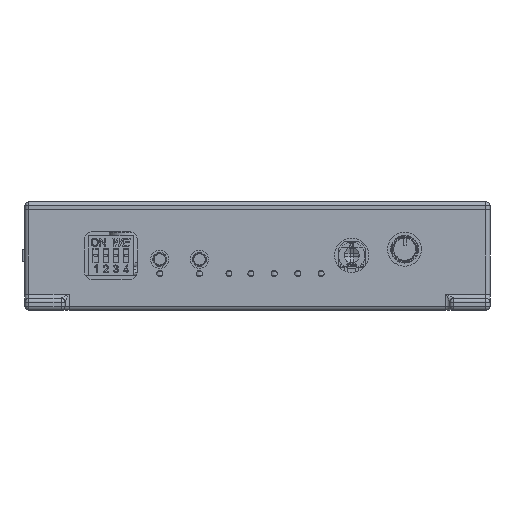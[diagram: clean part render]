
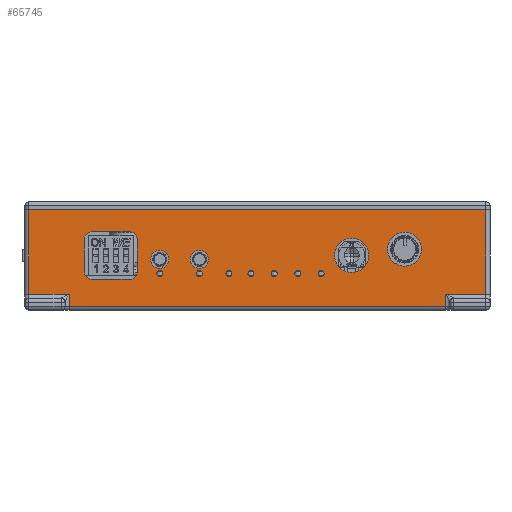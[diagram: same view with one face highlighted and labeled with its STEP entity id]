
A CAD part, front view. The second image highlights one B-rep face of the part: STEP entity #65745.
In plain terms, the highlighted planar face has unit normal (0, -1, 0).
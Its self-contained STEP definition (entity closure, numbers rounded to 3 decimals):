
#2525=CIRCLE('',#69641,0.75);
#2526=CIRCLE('',#69642,0.75);
#2527=CIRCLE('',#69643,0.75);
#2528=CIRCLE('',#69644,0.75);
#2529=CIRCLE('',#69645,0.75);
#2530=CIRCLE('',#69646,0.75);
#2531=CIRCLE('',#69647,0.75);
#2532=CIRCLE('',#69648,2.);
#2533=CIRCLE('',#69649,2.);
#2534=CIRCLE('',#69650,2.);
#2535=CIRCLE('',#69651,2.);
#2536=CIRCLE('',#69652,4.25);
#2537=CIRCLE('',#69653,2.25);
#2538=CIRCLE('',#69654,2.25);
#2539=CIRCLE('',#69655,4.25);
#4550=FACE_BOUND('',#11462,.T.);
#4551=FACE_BOUND('',#11463,.T.);
#4552=FACE_BOUND('',#11464,.T.);
#4553=FACE_BOUND('',#11465,.T.);
#4554=FACE_BOUND('',#11466,.T.);
#4555=FACE_BOUND('',#11467,.T.);
#4556=FACE_BOUND('',#11468,.T.);
#4557=FACE_BOUND('',#11469,.T.);
#4558=FACE_BOUND('',#11470,.T.);
#4559=FACE_BOUND('',#11471,.T.);
#4560=FACE_BOUND('',#11472,.T.);
#4561=FACE_BOUND('',#11473,.T.);
#5056=PLANE('',#69640);
#7800=FACE_OUTER_BOUND('',#11461,.T.);
#11461=EDGE_LOOP('',(#47375,#47376,#47377,#47378,#47379,#47380,#47381,#47382));
#11462=EDGE_LOOP('',(#47383));
#11463=EDGE_LOOP('',(#47384));
#11464=EDGE_LOOP('',(#47385));
#11465=EDGE_LOOP('',(#47386));
#11466=EDGE_LOOP('',(#47387));
#11467=EDGE_LOOP('',(#47388));
#11468=EDGE_LOOP('',(#47389));
#11469=EDGE_LOOP('',(#47390,#47391,#47392,#47393,#47394,#47395,#47396,#47397));
#11470=EDGE_LOOP('',(#47398));
#11471=EDGE_LOOP('',(#47399));
#11472=EDGE_LOOP('',(#47400));
#11473=EDGE_LOOP('',(#47401));
#15505=LINE('',#93136,#22750);
#15578=LINE('',#93501,#22823);
#15579=LINE('',#93505,#22824);
#15582=LINE('',#93513,#22827);
#15616=LINE('',#93700,#22861);
#15617=LINE('',#93702,#22862);
#15618=LINE('',#93703,#22863);
#15619=LINE('',#93704,#22864);
#15620=LINE('',#93721,#22865);
#15621=LINE('',#93725,#22866);
#15622=LINE('',#93729,#22867);
#15623=LINE('',#93733,#22868);
#22750=VECTOR('',#75155,94.);
#22823=VECTOR('',#75494,21.);
#22824=VECTOR('',#75499,114.);
#22827=VECTOR('',#75506,21.);
#22861=VECTOR('',#75696,3.);
#22862=VECTOR('',#75699,10.);
#22863=VECTOR('',#75700,10.);
#22864=VECTOR('',#75701,3.);
#22865=VECTOR('',#75716,7.9);
#22866=VECTOR('',#75719,9.16);
#22867=VECTOR('',#75722,7.9);
#22868=VECTOR('',#75725,9.16);
#30617=VERTEX_POINT('',#93130);
#30618=VERTEX_POINT('',#93134);
#30682=VERTEX_POINT('',#93476);
#30686=VERTEX_POINT('',#93495);
#30687=VERTEX_POINT('',#93499);
#30688=VERTEX_POINT('',#93504);
#30691=VERTEX_POINT('',#93512);
#30703=VERTEX_POINT('',#93577);
#30737=VERTEX_POINT('',#93705);
#30738=VERTEX_POINT('',#93707);
#30739=VERTEX_POINT('',#93709);
#30740=VERTEX_POINT('',#93711);
#30741=VERTEX_POINT('',#93713);
#30742=VERTEX_POINT('',#93715);
#30743=VERTEX_POINT('',#93717);
#30744=VERTEX_POINT('',#93719);
#30745=VERTEX_POINT('',#93720);
#30746=VERTEX_POINT('',#93722);
#30747=VERTEX_POINT('',#93724);
#30748=VERTEX_POINT('',#93726);
#30749=VERTEX_POINT('',#93728);
#30750=VERTEX_POINT('',#93730);
#30751=VERTEX_POINT('',#93732);
#30752=VERTEX_POINT('',#93735);
#30753=VERTEX_POINT('',#93737);
#30754=VERTEX_POINT('',#93739);
#30755=VERTEX_POINT('',#93741);
#37055=EDGE_CURVE('',#30618,#30617,#15505,.T.);
#37195=EDGE_CURVE('',#30686,#30687,#15578,.T.);
#37196=EDGE_CURVE('',#30688,#30687,#15579,.T.);
#37200=EDGE_CURVE('',#30688,#30691,#15582,.T.);
#37275=EDGE_CURVE('',#30703,#30618,#15616,.T.);
#37276=EDGE_CURVE('',#30691,#30703,#15617,.T.);
#37277=EDGE_CURVE('',#30682,#30686,#15618,.T.);
#37278=EDGE_CURVE('',#30617,#30682,#15619,.T.);
#37279=EDGE_CURVE('',#30737,#30737,#2525,.T.);
#37280=EDGE_CURVE('',#30738,#30738,#2526,.T.);
#37281=EDGE_CURVE('',#30739,#30739,#2527,.T.);
#37282=EDGE_CURVE('',#30740,#30740,#2528,.T.);
#37283=EDGE_CURVE('',#30741,#30741,#2529,.T.);
#37284=EDGE_CURVE('',#30742,#30742,#2530,.T.);
#37285=EDGE_CURVE('',#30743,#30743,#2531,.T.);
#37286=EDGE_CURVE('',#30744,#30745,#15620,.T.);
#37287=EDGE_CURVE('',#30746,#30745,#2532,.T.);
#37288=EDGE_CURVE('',#30746,#30747,#15621,.T.);
#37289=EDGE_CURVE('',#30748,#30747,#2533,.T.);
#37290=EDGE_CURVE('',#30748,#30749,#15622,.T.);
#37291=EDGE_CURVE('',#30750,#30749,#2534,.T.);
#37292=EDGE_CURVE('',#30750,#30751,#15623,.T.);
#37293=EDGE_CURVE('',#30744,#30751,#2535,.T.);
#37294=EDGE_CURVE('',#30752,#30752,#2536,.T.);
#37295=EDGE_CURVE('',#30753,#30753,#2537,.T.);
#37296=EDGE_CURVE('',#30754,#30754,#2538,.T.);
#37297=EDGE_CURVE('',#30755,#30755,#2539,.T.);
#47375=ORIENTED_EDGE('',*,*,#37055,.F.);
#47376=ORIENTED_EDGE('',*,*,#37275,.F.);
#47377=ORIENTED_EDGE('',*,*,#37276,.F.);
#47378=ORIENTED_EDGE('',*,*,#37200,.F.);
#47379=ORIENTED_EDGE('',*,*,#37196,.T.);
#47380=ORIENTED_EDGE('',*,*,#37195,.F.);
#47381=ORIENTED_EDGE('',*,*,#37277,.F.);
#47382=ORIENTED_EDGE('',*,*,#37278,.F.);
#47383=ORIENTED_EDGE('',*,*,#37279,.T.);
#47384=ORIENTED_EDGE('',*,*,#37280,.T.);
#47385=ORIENTED_EDGE('',*,*,#37281,.T.);
#47386=ORIENTED_EDGE('',*,*,#37282,.T.);
#47387=ORIENTED_EDGE('',*,*,#37283,.T.);
#47388=ORIENTED_EDGE('',*,*,#37284,.T.);
#47389=ORIENTED_EDGE('',*,*,#37285,.T.);
#47390=ORIENTED_EDGE('',*,*,#37286,.T.);
#47391=ORIENTED_EDGE('',*,*,#37287,.F.);
#47392=ORIENTED_EDGE('',*,*,#37288,.T.);
#47393=ORIENTED_EDGE('',*,*,#37289,.F.);
#47394=ORIENTED_EDGE('',*,*,#37290,.T.);
#47395=ORIENTED_EDGE('',*,*,#37291,.F.);
#47396=ORIENTED_EDGE('',*,*,#37292,.T.);
#47397=ORIENTED_EDGE('',*,*,#37293,.F.);
#47398=ORIENTED_EDGE('',*,*,#37294,.T.);
#47399=ORIENTED_EDGE('',*,*,#37295,.T.);
#47400=ORIENTED_EDGE('',*,*,#37296,.T.);
#47401=ORIENTED_EDGE('',*,*,#37297,.T.);
#65745=ADVANCED_FACE('',(#7800,#4550,#4551,#4552,#4553,#4554,#4555,#4556,
#4557,#4558,#4559,#4560,#4561),#5056,.T.);
#69640=AXIS2_PLACEMENT_3D('',#93701,#75697,#75698);
#69641=AXIS2_PLACEMENT_3D('',#93706,#75702,#75703);
#69642=AXIS2_PLACEMENT_3D('',#93708,#75704,#75705);
#69643=AXIS2_PLACEMENT_3D('',#93710,#75706,#75707);
#69644=AXIS2_PLACEMENT_3D('',#93712,#75708,#75709);
#69645=AXIS2_PLACEMENT_3D('',#93714,#75710,#75711);
#69646=AXIS2_PLACEMENT_3D('',#93716,#75712,#75713);
#69647=AXIS2_PLACEMENT_3D('',#93718,#75714,#75715);
#69648=AXIS2_PLACEMENT_3D('',#93723,#75717,#75718);
#69649=AXIS2_PLACEMENT_3D('',#93727,#75720,#75721);
#69650=AXIS2_PLACEMENT_3D('',#93731,#75723,#75724);
#69651=AXIS2_PLACEMENT_3D('',#93734,#75726,#75727);
#69652=AXIS2_PLACEMENT_3D('',#93736,#75728,#75729);
#69653=AXIS2_PLACEMENT_3D('',#93738,#75730,#75731);
#69654=AXIS2_PLACEMENT_3D('',#93740,#75732,#75733);
#69655=AXIS2_PLACEMENT_3D('',#93742,#75734,#75735);
#75155=DIRECTION('',(-1.,0.,0.));
#75494=DIRECTION('',(0.,0.,1.));
#75499=DIRECTION('',(-1.,0.,0.));
#75506=DIRECTION('',(0.,0.,-1.));
#75696=DIRECTION('',(0.,0.,-1.));
#75697=DIRECTION('center_axis',(0.,-1.,0.));
#75698=DIRECTION('ref_axis',(0.,0.,-1.));
#75699=DIRECTION('',(-1.,0.,0.));
#75700=DIRECTION('',(-1.,0.,0.));
#75701=DIRECTION('',(0.,0.,1.));
#75702=DIRECTION('center_axis',(0.,1.,0.));
#75703=DIRECTION('ref_axis',(1.,0.,0.));
#75704=DIRECTION('center_axis',(0.,1.,0.));
#75705=DIRECTION('ref_axis',(1.,0.,0.));
#75706=DIRECTION('center_axis',(0.,1.,0.));
#75707=DIRECTION('ref_axis',(1.,0.,0.));
#75708=DIRECTION('center_axis',(0.,1.,0.));
#75709=DIRECTION('ref_axis',(1.,0.,0.));
#75710=DIRECTION('center_axis',(0.,1.,0.));
#75711=DIRECTION('ref_axis',(1.,0.,0.));
#75712=DIRECTION('center_axis',(0.,1.,0.));
#75713=DIRECTION('ref_axis',(1.,0.,0.));
#75714=DIRECTION('center_axis',(0.,1.,0.));
#75715=DIRECTION('ref_axis',(1.,0.,0.));
#75716=DIRECTION('',(0.,0.,1.));
#75717=DIRECTION('center_axis',(0.,-1.,0.));
#75718=DIRECTION('ref_axis',(-0.707,0.,0.707));
#75719=DIRECTION('',(1.,0.,0.));
#75720=DIRECTION('center_axis',(0.,-1.,0.));
#75721=DIRECTION('ref_axis',(0.707,0.,0.707));
#75722=DIRECTION('',(0.,0.,-1.));
#75723=DIRECTION('center_axis',(0.,-1.,0.));
#75724=DIRECTION('ref_axis',(0.707,0.,-0.707));
#75725=DIRECTION('',(-1.,0.,0.));
#75726=DIRECTION('center_axis',(0.,-1.,0.));
#75727=DIRECTION('ref_axis',(-0.707,0.,-0.707));
#75728=DIRECTION('center_axis',(0.,1.,0.));
#75729=DIRECTION('ref_axis',(1.,0.,0.));
#75730=DIRECTION('center_axis',(0.,1.,0.));
#75731=DIRECTION('ref_axis',(1.,0.,0.));
#75732=DIRECTION('center_axis',(0.,1.,0.));
#75733=DIRECTION('ref_axis',(1.,0.,0.));
#75734=DIRECTION('center_axis',(0.,1.,0.));
#75735=DIRECTION('ref_axis',(1.,0.,0.));
#93130=CARTESIAN_POINT('',(-47.,-53.,1.));
#93134=CARTESIAN_POINT('',(47.,-53.,1.));
#93136=CARTESIAN_POINT('',(0.,-53.,1.));
#93476=CARTESIAN_POINT('',(-47.,-53.,4.));
#93495=CARTESIAN_POINT('',(-57.,-53.,4.));
#93499=CARTESIAN_POINT('',(-57.,-53.,25.));
#93501=CARTESIAN_POINT('',(-57.,-53.,8.875));
#93504=CARTESIAN_POINT('',(57.,-53.,25.));
#93505=CARTESIAN_POINT('',(0.,-53.,25.));
#93512=CARTESIAN_POINT('',(57.,-53.,4.));
#93513=CARTESIAN_POINT('',(57.,-53.,8.875));
#93577=CARTESIAN_POINT('',(47.,-53.,4.));
#93700=CARTESIAN_POINT('',(47.,-53.,6.75));
#93701=CARTESIAN_POINT('Origin',(0.,-53.,13.5));
#93702=CARTESIAN_POINT('',(26.5,-53.,4.));
#93703=CARTESIAN_POINT('',(-26.5,-53.,4.));
#93704=CARTESIAN_POINT('',(-47.,-53.,6.75));
#93705=CARTESIAN_POINT('',(-13.719,-53.,9.111));
#93706=CARTESIAN_POINT('Origin',(-14.469,-53.,9.111));
#93707=CARTESIAN_POINT('',(16.634,-53.,9.111));
#93708=CARTESIAN_POINT('Origin',(15.884,-53.,9.111));
#93709=CARTESIAN_POINT('',(4.94,-53.,9.111));
#93710=CARTESIAN_POINT('Origin',(4.19,-53.,9.111));
#93711=CARTESIAN_POINT('',(-0.906,-53.,9.111));
#93712=CARTESIAN_POINT('Origin',(-1.656,-53.,9.111));
#93713=CARTESIAN_POINT('',(10.787,-53.,9.111));
#93714=CARTESIAN_POINT('Origin',(10.037,-53.,9.111));
#93715=CARTESIAN_POINT('',(-6.353,-53.,9.111));
#93716=CARTESIAN_POINT('Origin',(-7.103,-53.,9.111));
#93717=CARTESIAN_POINT('',(-23.625,-53.,9.111));
#93718=CARTESIAN_POINT('Origin',(-24.375,-53.,9.111));
#93719=CARTESIAN_POINT('',(-43.165,-53.,9.641));
#93720=CARTESIAN_POINT('',(-43.165,-53.,17.541));
#93721=CARTESIAN_POINT('',(-43.165,-53.,10.571));
#93722=CARTESIAN_POINT('',(-41.165,-53.,19.541));
#93723=CARTESIAN_POINT('Origin',(-41.165,-53.,17.541));
#93724=CARTESIAN_POINT('',(-32.005,-53.,19.541));
#93725=CARTESIAN_POINT('',(-21.583,-53.,19.541));
#93726=CARTESIAN_POINT('',(-30.005,-53.,17.541));
#93727=CARTESIAN_POINT('Origin',(-32.005,-53.,17.541));
#93728=CARTESIAN_POINT('',(-30.005,-53.,9.641));
#93729=CARTESIAN_POINT('',(-30.005,-53.,16.521));
#93730=CARTESIAN_POINT('',(-32.005,-53.,7.641));
#93731=CARTESIAN_POINT('Origin',(-32.005,-53.,9.641));
#93732=CARTESIAN_POINT('',(-41.165,-53.,7.641));
#93733=CARTESIAN_POINT('',(-15.003,-53.,7.641));
#93734=CARTESIAN_POINT('Origin',(-41.165,-53.,9.641));
#93735=CARTESIAN_POINT('',(27.736,-53.,13.662));
#93736=CARTESIAN_POINT('Origin',(23.486,-53.,13.662));
#93737=CARTESIAN_POINT('',(-22.143,-53.,12.641));
#93738=CARTESIAN_POINT('Origin',(-24.393,-53.,12.641));
#93739=CARTESIAN_POINT('',(-12.237,-53.,12.641));
#93740=CARTESIAN_POINT('Origin',(-14.487,-53.,12.641));
#93741=CARTESIAN_POINT('',(40.944,-53.,15.191));
#93742=CARTESIAN_POINT('Origin',(36.694,-53.,15.191));
